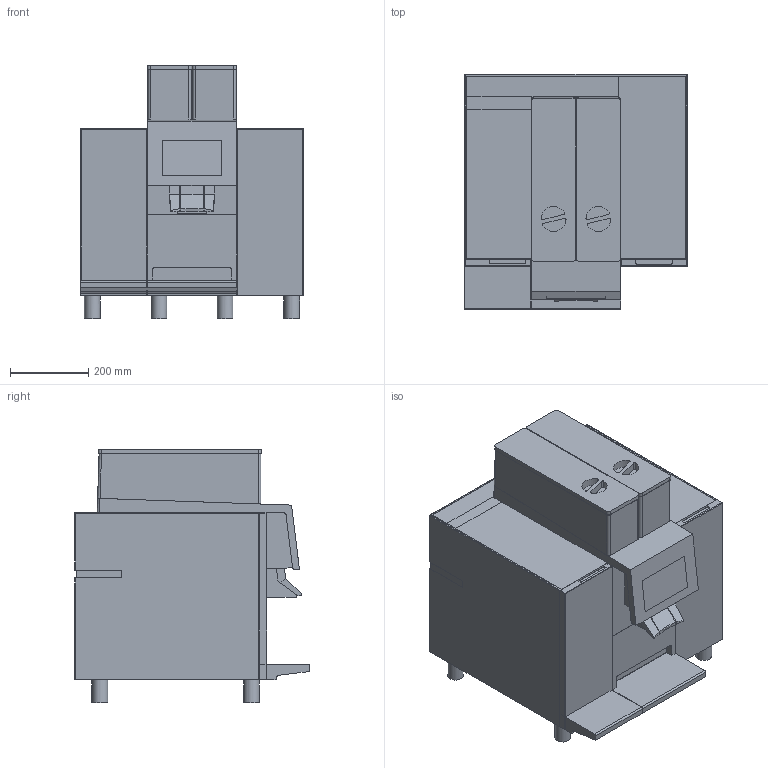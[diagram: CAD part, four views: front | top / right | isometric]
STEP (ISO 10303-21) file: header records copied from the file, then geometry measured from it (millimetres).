
FILE_DESCRIPTION(/* description */ ('Unknown'),/* implementation_level */ '2;1');
FILE_NAME(/* name */ 'HM_BW4c-CTM-F-RS',/* time_stamp */ '2026-08-14T14:28:53+02:00',/* author */ ('Unknown'),/* organization */ ('Unknown'),/* preprocessor_version */ 'ST-DEVELOPER v20',/* originating_system */ 'Solid Edge',/* authorisation */ 'Unknown');
FILE_SCHEMA (('AUTOMOTIVE_DESIGN {1 0 10303 214 3 1 1}'));
Length unit declared in the file: millimetre
Products named in the file (1): HM_BW4c-CTM-F-RS
Bounding box: 569.3 x 599.39 x 645.98 mm (x, y, z)
Volume: 137370195.8 mm3; surface area: 2148580.1 mm2
Topology: 1 solids, 1 shells, 301 faces, 818 edges, 527 vertices
Faces by surface type: plane 220, cylinder 77, sphere 4
Full cylindrical faces by diameter (mm): 40 x8
Entity records: 11469 total; most frequent: CARTESIAN_POINT 1629, ORIENTED_EDGE 1606, DIRECTION 1575, EDGE_CURVE 803, LINE 635, VECTOR 635, VERTEX_POINT 524, AXIS2_PLACEMENT_3D 470
